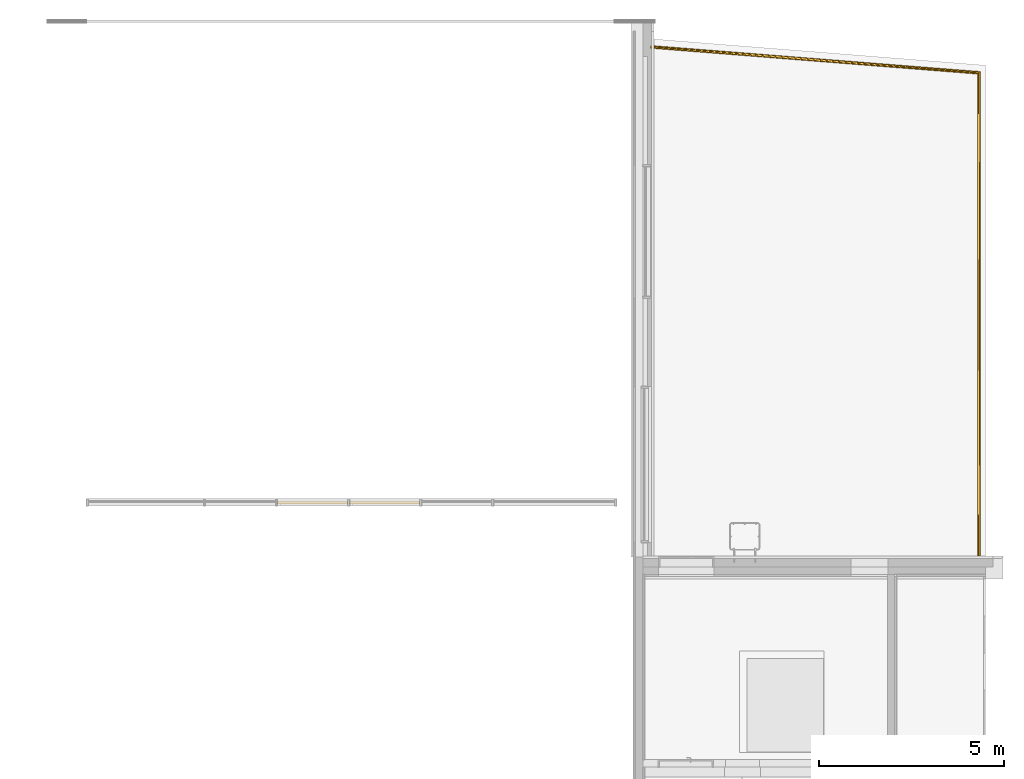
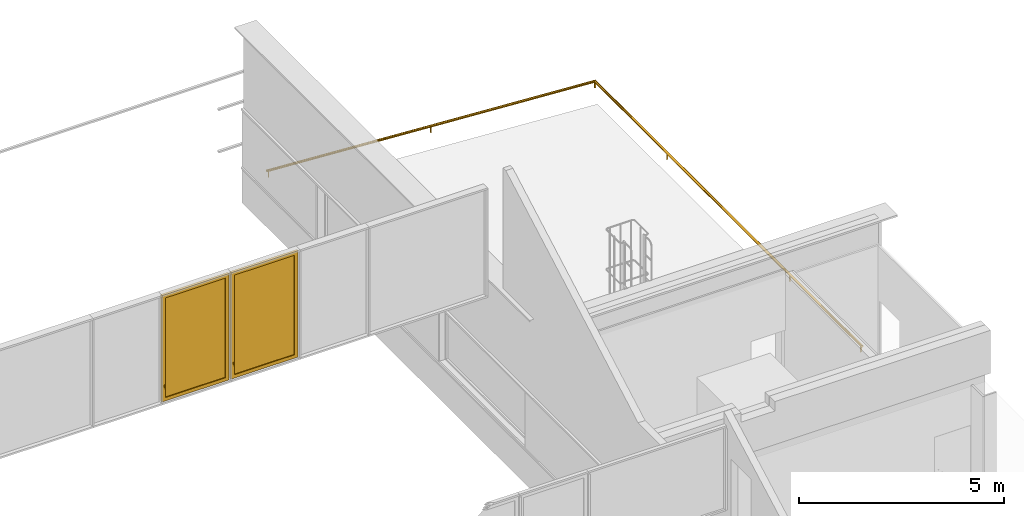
# One storey, part 42 of 44: 2 windows, 1 railing, 1 element without a shape of its own.
"""IFC2X3 building model written with IfcOpenShell, lengths in centimetres."""

from ifc_helpers import new_model, entity, si_unit, converted_unit, derived_unit, direction, frame, origin, place, context, subcontext, project, spatial, faceted_brep, source, transform, mapped, material, material_list, type_object, type_shapes, element, aggregate, save


model = new_model("IFC2X3")

# Units and contexts
model_context = context("Model", 3, precision=0.001, world=origin(), true_north=direction((6.12303176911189e-17, 1.0)))
body_context = subcontext(model_context, "Body", "Model", "MODEL_VIEW")
ifc_project = project(units=[si_unit("LENGTHUNIT", "METRE", prefix="CENTI"), si_unit("AREAUNIT", "SQUARE_METRE"), si_unit("VOLUMEUNIT", "CUBIC_METRE"), converted_unit("PLANEANGLEUNIT", "DEGREE", entity("IfcRatioMeasure", 0.0174532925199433), si_unit("PLANEANGLEUNIT", "RADIAN"), dimensions=[0, 0, 0, 0, 0, 0, 0]), si_unit("MASSUNIT", "GRAM", prefix="KILO"), si_unit("TIMEUNIT", "SECOND"), si_unit("FREQUENCYUNIT", "HERTZ"), si_unit("THERMODYNAMICTEMPERATUREUNIT", "DEGREE_CELSIUS"), derived_unit("THERMALTRANSMITTANCEUNIT", [(si_unit("MASSUNIT", "GRAM", prefix="KILO"), 1), (si_unit("THERMODYNAMICTEMPERATUREUNIT", "KELVIN"), -1), (si_unit("TIMEUNIT", "SECOND"), -3)]), derived_unit("VOLUMETRICFLOWRATEUNIT", [(si_unit("LENGTHUNIT", "METRE"), 3), (si_unit("TIMEUNIT", "SECOND"), -1)]), si_unit("ELECTRICCURRENTUNIT", "AMPERE"), si_unit("ELECTRICVOLTAGEUNIT", "VOLT"), si_unit("POWERUNIT", "WATT"), si_unit("FORCEUNIT", "NEWTON", prefix="KILO"), si_unit("ILLUMINANCEUNIT", "LUX"), si_unit("LUMINOUSFLUXUNIT", "LUMEN"), si_unit("LUMINOUSINTENSITYUNIT", "CANDELA"), derived_unit("USERDEFINED", [(si_unit("MASSUNIT", "GRAM", prefix="KILO"), -1), (si_unit("LENGTHUNIT", "METRE"), -2), (si_unit("TIMEUNIT", "SECOND"), 3), (si_unit("LUMINOUSFLUXUNIT", "LUMEN"), 1)]), derived_unit("LINEARVELOCITYUNIT", [(si_unit("LENGTHUNIT", "METRE"), 1), (si_unit("TIMEUNIT", "SECOND"), -1)]), si_unit("PRESSUREUNIT", "PASCAL"), derived_unit("USERDEFINED", [(si_unit("LENGTHUNIT", "METRE"), -2), (si_unit("MASSUNIT", "GRAM", prefix="KILO"), 1), (si_unit("TIMEUNIT", "SECOND"), -2)])], contexts=[model_context])

# Site, building, storey
site_placement = place(None, frame((8.62739174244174, -249.285249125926, 0.0)))
site = spatial("IfcSite", under=ifc_project, at=site_placement, Name="Default", CompositionType="ELEMENT")
building_placement = place(site_placement, origin())
building = spatial("IfcBuilding", under=site, at=building_placement, CompositionType="ELEMENT")
storey_placement = place(building_placement, frame((0.0, 0.0, 343.0)))
storey = spatial("IfcBuildingStorey", under=building, at=storey_placement, Name="R+1", CompositionType="ELEMENT", Elevation=343.0)

# Curtain wall, windows
curtain_wall_type = type_object("IfcCurtainWallType", Name="Mur-rideau:Simple panneau", PredefinedType="NOTDEFINED")
curtain_wall_placement = place(storey_placement, frame((0.0, 0.0, -343.0)))
curtain_wall = element("IfcCurtainWall", 1, at=curtain_wall_placement, inside=storey, type_object=curtain_wall_type, Name="Mur-rideau:Simple panneau", ObjectType="Mur-rideau:Simple panneau")
ifc_material_1 = material(Name="PVC - Blanc")
ifc_material_2 = material(Name="Fenêtre - Vitrage")
ifc_material_list_1 = material_list([ifc_material_1, ifc_material_2])
ifc_material_list_2 = material_list([ifc_material_1, ifc_material_2])
window_style_1 = type_object("IfcWindowStyle", Name="MR 1 OB", ConstructionType="NOTDEFINED", OperationType="NOTDEFINED", ParameterTakesPrecedence=False, Sizeable=False, material=ifc_material_list_2)
shared_shape_1 = source(origin(), body_context, "Body", "Brep", [
    faceted_brep([(-87.8771009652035, -4.92408568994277, 47.2033929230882), (-86.7478990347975, -4.92408568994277, 47.2033929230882), (-86.6091070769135, -4.92408568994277, 47.0646009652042), (-86.6091070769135, -4.92408568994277, 45.9332301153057), (-86.745730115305, -4.92408568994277, 45.7966070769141), (-87.879269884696, -4.92408568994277, 45.7966070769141), (-88.0158929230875, -4.92408568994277, 45.9332301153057), (-88.0158929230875, -4.92408568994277, 47.0646009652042), (-88.0158929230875, -6.1579510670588, 47.0646009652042), (-87.8771009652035, -6.21544057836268, 47.2033929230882), (-88.0158929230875, -5.68932191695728, 45.9332301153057), (-88.0158929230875, -6.35731580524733, 45.2652362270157), (-88.0158929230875, -6.35731580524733, 37.0), (-88.0158929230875, -7.48868665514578, 37.0), (-88.0158929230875, -7.48868665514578, 45.7338653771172), (-87.879269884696, -5.63273080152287, 45.7966070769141), (-86.745730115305, -5.63273080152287, 45.7966070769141), (-86.6091070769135, -5.68932191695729, 45.9332301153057), (-86.6091070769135, -6.1579510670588, 47.0646009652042), (-86.6091070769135, -7.48868665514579, 45.7338653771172), (-86.6091070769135, -7.48868665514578, 37.0), (-86.6091070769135, -6.35731580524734, 37.0), (-86.6091070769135, -6.35731580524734, 45.2652362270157), (-86.7478990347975, -6.21544057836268, 47.2033929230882), (-87.8771009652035, -7.62747861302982, 45.7913548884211), (-87.879269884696, -6.22069276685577, 45.2086451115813), (-86.745730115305, -6.22069276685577, 45.2086451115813), (-86.7478990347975, -7.62747861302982, 45.7913548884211), (-87.8771009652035, -7.62747861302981, 37.0), (-87.879269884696, -6.22069276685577, 37.0), (-86.745730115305, -6.22069276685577, 37.0), (-86.7478990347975, -7.62747861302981, 37.0)], [[[0, 1, 2, 3, 4, 5, 6, 7]], [[7, 8, 9, 0]], [[6, 10, 11, 12, 13, 14, 8, 7]], [[5, 15, 10, 6]], [[4, 16, 15, 5]], [[3, 17, 16, 4]], [[2, 18, 19, 20, 21, 22, 17, 3]], [[1, 23, 18, 2]], [[0, 9, 23, 1]], [[8, 14, 24, 9]], [[15, 25, 11, 10]], [[16, 26, 25, 15]], [[17, 22, 26, 16]], [[23, 27, 19, 18]], [[9, 24, 27, 23]], [[28, 13, 12, 29, 30, 21, 20, 31]], [[14, 13, 28, 24]], [[25, 29, 12, 11]], [[26, 30, 29, 25]], [[22, 21, 30, 26]], [[27, 31, 20, 19]], [[24, 28, 31, 27]]]),
    faceted_brep([(-88.0125000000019, -4.32408568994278, 49.0), (-86.6125000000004, -4.32408568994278, 49.0), (-86.1125000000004, -4.32408568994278, 48.500000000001), (-86.1125000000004, -4.32408568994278, 41.4999999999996), (-86.6124999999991, -4.32408568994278, 41.0), (-88.0125000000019, -4.32408568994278, 41.0), (-88.5125000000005, -4.32408568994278, 41.4999999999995), (-88.5125000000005, -4.32408568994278, 48.500000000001), (-88.0125000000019, -4.92408568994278, 49.0), (-88.5125000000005, -4.92408568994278, 48.500000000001), (-88.5125000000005, -4.92408568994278, 41.4999999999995), (-88.0125000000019, -4.92408568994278, 41.0), (-86.6124999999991, -4.92408568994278, 41.0), (-86.1125000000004, -4.92408568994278, 41.4999999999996), (-86.1125000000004, -4.92408568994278, 48.500000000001), (-86.6125000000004, -4.92408568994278, 49.0)], [[[0, 1, 2, 3, 4, 5, 6, 7]], [[8, 9, 10, 11, 12, 13, 14, 15]], [[7, 9, 8, 0]], [[6, 10, 9, 7]], [[5, 11, 10, 6]], [[4, 12, 11, 5]], [[3, 13, 12, 4]], [[2, 14, 13, 3]], [[1, 15, 14, 2]], [[0, 8, 15, 1]]]),
    faceted_brep([(84.812500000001, -1.92408568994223, 306.983987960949), (-84.812500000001, -1.92408568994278, 306.983987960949), (-84.812500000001, -1.92408568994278, 10.0), (84.812500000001, -1.92408568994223, 10.0), (84.812500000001, -0.724085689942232, 306.983987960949), (84.812500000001, -0.724085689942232, 10.0), (-84.812500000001, -0.724085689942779, 10.0), (-84.812500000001, -0.724085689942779, 306.983987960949)], [[[0, 1, 2, 3]], [[4, 5, 6, 7]], [[1, 0, 4, 7]], [[2, 1, 7, 6]], [[3, 2, 6, 5]], [[0, 3, 5, 4]]]),
    faceted_brep([(-89.812500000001, 1.67591431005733, 311.983987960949), (-89.812500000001, -4.3240856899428, 311.983987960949), (89.812500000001, -4.3240856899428, 311.983987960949), (89.812500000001, 1.67591431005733, 311.983987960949), (-84.812500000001, -4.3240856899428, 306.983987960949), (-84.812500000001, 1.67591431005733, 306.983987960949), (84.812500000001, 1.67591431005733, 306.983987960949), (84.812500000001, -4.3240856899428, 306.983987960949), (89.812500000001, -4.3240856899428, 5.0), (89.812500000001, 1.67591431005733, 5.0), (84.812500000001, 1.67591431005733, 10.0), (84.812500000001, -4.3240856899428, 10.0), (-89.812500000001, -4.3240856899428, 5.0), (-89.812500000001, 1.67591431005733, 5.0), (-84.812500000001, 1.67591431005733, 10.0), (-84.812500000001, -4.3240856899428, 10.0)], [[[0, 1, 2, 3]], [[4, 5, 6, 7]], [[3, 2, 8, 9]], [[7, 6, 10, 11]], [[9, 8, 12, 13]], [[11, 10, 14, 15]], [[7, 11, 15, 4], [1, 12, 8, 2]], [[13, 12, 1, 0]], [[3, 9, 13, 0], [5, 14, 10, 6]], [[15, 14, 5, 4]]], outer=[[True], [True], [True], [True], [True], [True], [False, True], [True], [True, False], [True]]),
    faceted_brep([(-88.8125000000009, 1.6759143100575, 310.983987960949), (-88.8125000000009, 2.67591431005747, 310.983987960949), (88.8125000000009, 2.67591431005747, 310.983987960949), (88.8125000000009, 1.6759143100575, 310.983987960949), (-89.8125000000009, -4.32408568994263, 311.983987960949), (-89.8125000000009, 1.6759143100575, 311.983987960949), (89.8125000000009, 1.6759143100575, 311.983987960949), (89.8125000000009, -4.32408568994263, 311.983987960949), (-94.8125000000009, 2.67591431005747, 316.983987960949), (-94.8125000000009, -4.32408568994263, 316.983987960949), (94.8125000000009, -4.32408568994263, 316.983987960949), (94.8125000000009, 2.67591431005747, 316.983987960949), (88.8125000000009, 2.67591431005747, 6.0), (88.8125000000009, 1.6759143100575, 6.0), (89.8125000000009, 1.6759143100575, 5.0), (89.8125000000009, -4.32408568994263, 5.0), (94.8125000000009, -4.32408568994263, 0.0), (94.8125000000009, 2.67591431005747, 0.0), (-88.8125000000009, 2.67591431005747, 6.0), (-88.8125000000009, 1.6759143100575, 6.0), (-89.8125000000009, 1.6759143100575, 5.0), (-89.8125000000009, -4.32408568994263, 5.0), (-94.8125000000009, -4.32408568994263, 0.0), (-94.8125000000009, 2.67591431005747, 0.0)], [[[0, 1, 2, 3]], [[4, 5, 6, 7]], [[8, 9, 10, 11]], [[3, 2, 12, 13]], [[7, 6, 14, 15]], [[11, 10, 16, 17]], [[13, 12, 18, 19]], [[15, 14, 20, 21]], [[17, 16, 22, 23]], [[11, 17, 23, 8], [1, 18, 12, 2]], [[19, 18, 1, 0]], [[3, 13, 19, 0], [5, 20, 14, 6]], [[21, 20, 5, 4]], [[7, 15, 21, 4], [9, 22, 16, 10]], [[23, 22, 9, 8]]], outer=[[True], [True], [True], [True], [True], [True], [True], [True], [True], [True, False], [True], [False, True], [True], [False, True], [True]]),
])
type_shapes(window_style_1, [shared_shape_1])
window_1_placement = place(curtain_wall_placement, frame((2162.09474170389, 6289.4720025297, 860.0)))
window_1 = element("IfcWindow", 2, at=window_1_placement, type_object=window_style_1, material=ifc_material_list_1, Name="MR 1 OB:MR 1 OB", ObjectType="MR 1 OB", OverallHeight=316.983987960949, OverallWidth=189.625000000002, context=body_context, shape_type="MappedRepresentation", body=[
    mapped(shared_shape_1, transform((0.0, 0.0, 0.0), scale=1.0)),
])
ifc_material_list_3 = material_list([ifc_material_1, ifc_material_2])
ifc_material_list_4 = material_list([ifc_material_1, ifc_material_2])
window_style_2 = type_object("IfcWindowStyle", Name="MR 1 OB", ConstructionType="NOTDEFINED", OperationType="NOTDEFINED", ParameterTakesPrecedence=False, Sizeable=False, material=ifc_material_list_4)
shared_shape_2 = source(origin(), body_context, "Body", "Brep", [
    faceted_brep([(-87.86880643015, -4.92408568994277, 47.2033929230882), (-86.739604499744, -4.92408568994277, 47.2033929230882), (-86.60081254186, -4.92408568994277, 47.0646009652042), (-86.60081254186, -4.92408568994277, 45.9332301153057), (-86.7374355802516, -4.92408568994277, 45.7966070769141), (-87.8709753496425, -4.92408568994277, 45.7966070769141), (-88.0075983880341, -4.92408568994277, 45.9332301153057), (-88.0075983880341, -4.92408568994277, 47.0646009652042), (-88.007598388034, -6.1579510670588, 47.0646009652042), (-87.86880643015, -6.21544057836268, 47.2033929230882), (-88.007598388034, -5.68932191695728, 45.9332301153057), (-88.007598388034, -6.35731580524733, 45.2652362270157), (-88.007598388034, -6.35731580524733, 37.0), (-88.0075983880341, -7.48868665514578, 37.0), (-88.007598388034, -7.48868665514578, 45.7338653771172), (-87.8709753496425, -5.63273080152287, 45.7966070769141), (-86.7374355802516, -5.63273080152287, 45.7966070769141), (-86.60081254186, -5.68932191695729, 45.9332301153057), (-86.60081254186, -6.1579510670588, 47.0646009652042), (-86.60081254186, -7.48868665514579, 45.7338653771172), (-86.60081254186, -7.48868665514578, 37.0), (-86.60081254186, -6.35731580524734, 37.0), (-86.60081254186, -6.35731580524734, 45.2652362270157), (-86.739604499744, -6.21544057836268, 47.2033929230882), (-87.86880643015, -7.62747861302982, 45.7913548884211), (-87.8709753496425, -6.22069276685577, 45.2086451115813), (-86.7374355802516, -6.22069276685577, 45.2086451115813), (-86.739604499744, -7.62747861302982, 45.7913548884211), (-87.86880643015, -7.62747861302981, 37.0), (-87.8709753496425, -6.22069276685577, 37.0), (-86.7374355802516, -6.22069276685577, 37.0), (-86.739604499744, -7.62747861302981, 37.0)], [[[0, 1, 2, 3, 4, 5, 6, 7]], [[7, 8, 9, 0]], [[6, 10, 11, 12, 13, 14, 8, 7]], [[5, 15, 10, 6]], [[4, 16, 15, 5]], [[3, 17, 16, 4]], [[2, 18, 19, 20, 21, 22, 17, 3]], [[1, 23, 18, 2]], [[0, 9, 23, 1]], [[8, 14, 24, 9]], [[15, 25, 11, 10]], [[16, 26, 25, 15]], [[17, 22, 26, 16]], [[23, 27, 19, 18]], [[9, 24, 27, 23]], [[28, 13, 12, 29, 30, 21, 20, 31]], [[14, 13, 28, 24]], [[25, 29, 12, 11]], [[26, 30, 29, 25]], [[22, 21, 30, 26]], [[27, 31, 20, 19]], [[24, 28, 31, 27]]]),
    faceted_brep([(-88.0042054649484, -4.32408568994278, 49.0), (-86.6042054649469, -4.32408568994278, 49.0), (-86.1042054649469, -4.32408568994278, 48.500000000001), (-86.1042054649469, -4.32408568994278, 41.4999999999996), (-86.6042054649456, -4.32408568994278, 41.0), (-88.0042054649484, -4.32408568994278, 41.0), (-88.504205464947, -4.32408568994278, 41.4999999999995), (-88.504205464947, -4.32408568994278, 48.500000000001), (-88.0042054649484, -4.92408568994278, 49.0), (-88.504205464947, -4.92408568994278, 48.500000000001), (-88.504205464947, -4.92408568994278, 41.4999999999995), (-88.0042054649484, -4.92408568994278, 41.0), (-86.6042054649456, -4.92408568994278, 41.0), (-86.1042054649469, -4.92408568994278, 41.4999999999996), (-86.1042054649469, -4.92408568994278, 48.500000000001), (-86.6042054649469, -4.92408568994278, 49.0)], [[[0, 1, 2, 3, 4, 5, 6, 7]], [[8, 9, 10, 11, 12, 13, 14, 15]], [[7, 9, 8, 0]], [[6, 10, 9, 7]], [[5, 11, 10, 6]], [[4, 12, 11, 5]], [[3, 13, 12, 4]], [[2, 14, 13, 3]], [[1, 15, 14, 2]], [[0, 8, 15, 1]]]),
    faceted_brep([(84.8042054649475, -1.92408568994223, 306.983987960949), (-84.8042054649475, -1.92408568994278, 306.983987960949), (-84.8042054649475, -1.92408568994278, 10.0), (84.8042054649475, -1.92408568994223, 10.0), (84.8042054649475, -0.724085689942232, 306.983987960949), (84.8042054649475, -0.724085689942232, 10.0), (-84.8042054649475, -0.724085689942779, 10.0), (-84.8042054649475, -0.724085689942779, 306.983987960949)], [[[0, 1, 2, 3]], [[4, 5, 6, 7]], [[1, 0, 4, 7]], [[2, 1, 7, 6]], [[3, 2, 6, 5]], [[0, 3, 5, 4]]]),
    faceted_brep([(-89.8042054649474, 1.67591431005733, 311.983987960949), (-89.8042054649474, -4.3240856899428, 311.983987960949), (89.8042054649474, -4.3240856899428, 311.983987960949), (89.8042054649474, 1.67591431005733, 311.983987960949), (-84.8042054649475, -4.3240856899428, 306.983987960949), (-84.8042054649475, 1.67591431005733, 306.983987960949), (84.8042054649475, 1.67591431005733, 306.983987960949), (84.8042054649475, -4.3240856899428, 306.983987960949), (89.8042054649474, -4.3240856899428, 5.0), (89.8042054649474, 1.67591431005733, 5.0), (84.8042054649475, 1.67591431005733, 10.0), (84.8042054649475, -4.3240856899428, 10.0), (-89.8042054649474, -4.3240856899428, 5.0), (-89.8042054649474, 1.67591431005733, 5.0), (-84.8042054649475, 1.67591431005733, 10.0), (-84.8042054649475, -4.3240856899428, 10.0)], [[[0, 1, 2, 3]], [[4, 5, 6, 7]], [[3, 2, 8, 9]], [[7, 6, 10, 11]], [[9, 8, 12, 13]], [[11, 10, 14, 15]], [[7, 11, 15, 4], [1, 12, 8, 2]], [[13, 12, 1, 0]], [[3, 9, 13, 0], [5, 14, 10, 6]], [[15, 14, 5, 4]]], outer=[[True], [True], [True], [True], [True], [True], [False, True], [True], [True, False], [True]]),
    faceted_brep([(-88.8042054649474, 1.6759143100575, 310.983987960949), (-88.8042054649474, 2.67591431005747, 310.983987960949), (88.8042054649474, 2.67591431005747, 310.983987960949), (88.8042054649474, 1.6759143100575, 310.983987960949), (-89.8042054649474, -4.32408568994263, 311.983987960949), (-89.8042054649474, 1.6759143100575, 311.983987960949), (89.8042054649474, 1.6759143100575, 311.983987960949), (89.8042054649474, -4.32408568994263, 311.983987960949), (-94.8042054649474, 2.67591431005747, 316.983987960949), (-94.8042054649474, -4.32408568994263, 316.983987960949), (94.8042054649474, -4.32408568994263, 316.983987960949), (94.8042054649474, 2.67591431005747, 316.983987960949), (88.8042054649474, 2.67591431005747, 6.0), (88.8042054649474, 1.6759143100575, 6.0), (89.8042054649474, 1.6759143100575, 5.0), (89.8042054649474, -4.32408568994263, 5.0), (94.8042054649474, -4.32408568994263, 0.0), (94.8042054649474, 2.67591431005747, 0.0), (-88.8042054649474, 2.67591431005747, 6.0), (-88.8042054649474, 1.6759143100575, 6.0), (-89.8042054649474, 1.6759143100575, 5.0), (-89.8042054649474, -4.32408568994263, 5.0), (-94.8042054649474, -4.32408568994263, 0.0), (-94.8042054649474, 2.67591431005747, 0.0)], [[[0, 1, 2, 3]], [[4, 5, 6, 7]], [[8, 9, 10, 11]], [[3, 2, 12, 13]], [[7, 6, 14, 15]], [[11, 10, 16, 17]], [[13, 12, 18, 19]], [[15, 14, 20, 21]], [[17, 16, 22, 23]], [[11, 17, 23, 8], [1, 18, 12, 2]], [[19, 18, 1, 0]], [[3, 13, 19, 0], [5, 20, 14, 6]], [[21, 20, 5, 4]], [[7, 15, 21, 4], [9, 22, 16, 10]], [[23, 22, 9, 8]]], outer=[[True], [True], [True], [True], [True], [True], [True], [True], [True], [True, False], [True], [False, True], [True], [False, True], [True]]),
])
type_shapes(window_style_2, [shared_shape_2])
window_2_placement = place(curtain_wall_placement, frame((2356.71144716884, 6289.4720025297, 860.0)))
window_2 = element("IfcWindow", 3, at=window_2_placement, type_object=window_style_2, material=ifc_material_list_3, Name="MR 1 OB:MR 1 OB", ObjectType="MR 1 OB", OverallHeight=316.983987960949, OverallWidth=189.608410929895, context=body_context, shape_type="MappedRepresentation", body=[
    mapped(shared_shape_2, transform((0.0, 0.0, 0.0), scale=1.0)),
])
aggregate(curtain_wall, [window_1, window_2])

# Railing
ifc_material_3 = material(Name="Peinture - Grise")
ifc_material_4 = material(Name="Pin (1)")
ifc_material_list_5 = material_list([ifc_material_3, ifc_material_4])
railing_placement = place(storey_placement, frame((3074.43000059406, 6144.9802081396, 85.0)))
element("IfcRailing", 4, at=railing_placement, inside=storey, material=ifc_material_list_5, Name="Garde-corps:Type Bateau 3", ObjectType="Garde-corps:Type Bateau 3", PredefinedType="NOTDEFINED", context=body_context, shape_type="Brep", body=[
    faceted_brep([(442.769044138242, 1337.49509710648, 16.9846532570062), (443.965310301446, 1337.40050711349, 16.9846532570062), (444.280610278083, 1341.38806099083, 16.9846532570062), (443.08434411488, 1341.48265098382, 16.9846532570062), (442.769044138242, 1337.49509710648, 0.0), (443.08434411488, 1341.48265098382, 0.0), (444.280610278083, 1341.38806099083, 0.0), (443.965310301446, 1337.40050711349, 0.0)], [[[0, 1, 2, 3]], [[4, 5, 6, 7]], [[1, 0, 4, 7]], [[2, 1, 7, 6]], [[3, 2, 6, 5]], [[0, 3, 5, 4]]]),
    faceted_brep([(884.574827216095, 952.804580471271, 16.9846532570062), (884.574827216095, 951.604580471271, 16.9846532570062), (888.574827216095, 951.604580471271, 16.9846532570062), (888.574827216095, 952.804580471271, 16.9846532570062), (884.574827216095, 952.804580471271, 0.0), (888.574827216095, 952.804580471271, 0.0), (888.574827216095, 951.604580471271, 0.0), (884.574827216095, 951.604580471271, 0.0)], [[[0, 1, 2, 3]], [[4, 5, 6, 7]], [[1, 0, 4, 7]], [[2, 1, 7, 6]], [[3, 2, 6, 5]], [[0, 3, 5, 4]]]),
    faceted_brep([(884.574827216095, 352.804580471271, 16.9846532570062), (884.574827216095, 351.604580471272, 16.9846532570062), (888.574827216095, 351.604580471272, 16.9846532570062), (888.574827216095, 352.804580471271, 16.9846532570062), (884.574827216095, 352.804580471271, 0.0), (888.574827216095, 352.804580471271, 0.0), (888.574827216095, 351.604580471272, 0.0), (884.574827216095, 351.604580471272, 0.0)], [[[0, 1, 2, 3]], [[4, 5, 6, 7]], [[1, 0, 4, 7]], [[2, 1, 7, 6]], [[3, 2, 6, 5]], [[0, 3, 5, 4]]]),
    faceted_brep([(884.574827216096, 1305.00916094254, 16.9846532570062), (884.574827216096, 1303.80916094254, 16.9846532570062), (888.574827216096, 1303.80916094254, 16.9846532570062), (888.574827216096, 1305.00916094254, 16.9846532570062), (884.574827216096, 1305.00916094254, 0.0), (888.574827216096, 1305.00916094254, 0.0), (888.574827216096, 1303.80916094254, 0.0), (884.574827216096, 1303.80916094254, 0.0)], [[[0, 1, 2, 3]], [[4, 5, 6, 7]], [[1, 0, 4, 7]], [[2, 1, 7, 6]], [[3, 2, 6, 5]], [[0, 3, 5, 4]]]),
    faceted_brep([(4.70348647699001, 1372.13339024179, 16.9846532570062), (5.89975264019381, 1372.0388002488, 16.9846532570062), (6.2150526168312, 1376.02635412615, 16.9846532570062), (5.01878645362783, 1376.12094411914, 16.9846532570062), (4.70348647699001, 1372.13339024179, 0.0), (5.01878645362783, 1376.12094411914, 0.0), (6.2150526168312, 1376.02635412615, 0.0), (5.89975264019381, 1372.0388002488, 0.0)], [[[0, 1, 2, 3]], [[4, 5, 6, 7]], [[1, 0, 4, 7]], [[2, 1, 7, 6]], [[3, 2, 6, 5]], [[0, 3, 5, 4]]]),
    faceted_brep([(884.574827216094, 5.59999999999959, 16.9846532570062), (884.574827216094, 4.39999999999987, 16.9846532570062), (888.574827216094, 4.39999999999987, 16.9846532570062), (888.574827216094, 5.59999999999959, 16.9846532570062), (884.574827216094, 5.59999999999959, 0.0), (888.574827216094, 5.59999999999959, 0.0), (888.574827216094, 4.39999999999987, 0.0), (884.574827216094, 4.39999999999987, 0.0)], [[[0, 1, 2, 3]], [[4, 5, 6, 7]], [[1, 0, 4, 7]], [[2, 1, 7, 6]], [[3, 2, 6, 5]], [[0, 3, 5, 4]]]),
    faceted_brep([(886.156713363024, 0.0, 22.983565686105), (884.747736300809, 0.0, 22.3734607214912), (883.338759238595, 0.0, 21.7633557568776), (882.956793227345, 0.0, 20.8816778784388), (882.574827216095, 0.0, 20.0), (883.236566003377, 0.0, 18.8852827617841), (883.898304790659, 0.0, 17.770565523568), (885.445622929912, 0.0, 17.3934999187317), (886.992941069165, 0.0, 17.0164343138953), (888.40191813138, 0.0, 17.6265392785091), (889.810895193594, 0.0, 18.2366442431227), (890.192861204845, 0.0, 19.1183221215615), (890.574827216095, 0.0, 20.0), (889.913088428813, 0.0, 21.1147172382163), (889.25134964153, 0.0, 22.2294344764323), (887.704031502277, 0.0, 22.6065000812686), (885.445622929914, 1303.36571947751, 17.3934999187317), (886.992941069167, 1304.79551913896, 17.0164343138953), (886.156713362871, 651.682858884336, 17.0164343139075), (890.083216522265, 1307.65108884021, 18.8652333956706), (890.05360309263, 653.699725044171, 18.5192260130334), (889.810895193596, 1307.39945025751, 18.2366442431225), (883.236566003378, 1301.32443994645, 18.8852827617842), (883.898304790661, 1301.93591981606, 17.770565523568), (883.339108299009, 650.967962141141, 18.2362839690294), (890.574827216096, 511.391181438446, 20.0), (884.574827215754, 650.967958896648, 17.4019237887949), (890.449652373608, 751.412020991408, 19.2553704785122), (888.386631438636, 653.04874240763, 17.3253938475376), (889.252240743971, 689.557065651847, 17.7711674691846), (887.355238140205, 652.397759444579, 17.0576515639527), (888.401918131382, 1306.09748469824, 17.6265392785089), (882.839512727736, 650.662224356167, 18.9268378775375), (882.574827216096, 511.39404248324, 20.0), (882.574827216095, 512.845526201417, 20.0), (882.574827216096, 1300.71296007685, 20.0), (890.192861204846, 1307.75240603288, 19.1183221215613), (890.574827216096, 1308.10536180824, 20.0), (890.574827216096, 795.260163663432, 20.0), (885.339963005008, 652.01140102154, 22.8534627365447), (886.992941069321, 652.011401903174, 22.9835656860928), (882.679453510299, 722.975070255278, 20.6816603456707), (889.810895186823, 653.441203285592, 21.7633557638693), (883.338759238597, 1301.41887162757, 21.7633557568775), (883.011008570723, 650.709435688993, 21.3622768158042), (883.67722436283, 650.709435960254, 22.0681374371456), (890.415801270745, 645.285656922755, 20.8374912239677), (889.934244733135, 1307.51343142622, 21.0790788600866), (884.74773630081, 1302.72083718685, 22.3734607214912), (884.443338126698, 620.918764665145, 22.5385870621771), (889.251349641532, 1306.88240206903, 22.2294344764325), (887.704031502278, 1305.45260240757, 22.6065000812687), (888.576033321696, 653.441200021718, 22.5975537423), (882.956793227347, 1301.06591585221, 20.8816778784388), (886.156713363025, 1304.02280274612, 22.9835656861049), (886.930372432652, 1304.73770257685, 22.7950328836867), (889.913088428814, 1307.49388193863, 21.114717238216), (0.211688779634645, 1371.14612304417, 21.1147172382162), (0.263850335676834, 1371.80580281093, 22.2294344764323), (0.385817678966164, 1373.34830642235, 22.6065000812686), (0.507785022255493, 1374.89081003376, 22.983565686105), (0.618847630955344, 1376.29540302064, 22.3734607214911), (0.729910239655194, 1377.69999600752, 21.7633557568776), (0.760018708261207, 1378.08077351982, 20.8816778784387), (0.79012717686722, 1378.46155103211, 20.0), (0.759689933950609, 1378.07661555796, 19.3495416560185), (0.737965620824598, 1377.80187126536, 18.8852827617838), (0.685804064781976, 1377.1421914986, 17.770565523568), (0.563836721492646, 1375.59968788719, 17.3934999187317), (0.441869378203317, 1374.05718427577, 17.0164343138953), (0.386338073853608, 1373.35488778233, 17.3214867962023), (0.330806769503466, 1372.65259128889, 17.6265392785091), (0.219744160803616, 1371.24799830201, 18.2366442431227), (0.189635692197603, 1370.86722078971, 19.1183221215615), (0.15952722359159, 1370.48644327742, 20.0), (458.533465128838, 1334.4441967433, 19.0604642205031), (484.516361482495, 1332.85406139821, 18.344551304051), (420.716398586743, 1337.23257993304, 20.0), (386.788831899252, 1341.3210373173, 17.7193023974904), (442.876485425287, 1337.86081943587, 17.2593636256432), (465.14087861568, 1337.60943905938, 17.0014084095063), (471.725176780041, 1338.20200931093, 17.0927967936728), (457.145278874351, 1341.30021109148, 17.9548626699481), (481.919559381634, 1339.98109966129, 18.638441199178), (507.034348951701, 1338.32175674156, 19.3006645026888), (372.192023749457, 1347.09218682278, 17.4036559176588), (470.019793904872, 1341.35907981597, 20.0), (423.099466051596, 1345.06911828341, 20.0), (460.26159628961, 1334.10570057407, 20.0), (444.852761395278, 1343.08047360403, 21.0791498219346), (518.213695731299, 1336.782452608, 21.7629126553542), (417.964236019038, 1343.94491563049, 22.3570527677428), (421.582520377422, 1342.68934295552, 22.7786226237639), (443.688747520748, 1339.43066013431, 22.9999996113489), (400.030821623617, 1340.72313132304, 22.5293847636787), (498.506425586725, 1333.95296920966, 22.8761154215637), (471.438788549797, 1333.62408196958, 21.3090966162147), (437.325373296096, 1336.93287332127, 21.9931468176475)], [[[0, 1, 2, 3, 4, 5, 6, 7, 8, 9, 10, 11, 12, 13, 14, 15]], [[16, 17, 18]], [[19, 20, 21]], [[22, 23, 24]], [[25, 12, 11]], [[24, 6, 5]], [[7, 6, 26]], [[23, 16, 26]], [[20, 11, 10]], [[20, 27, 11]], [[28, 29, 9]], [[9, 30, 28]], [[31, 21, 29]], [[24, 5, 32]], [[7, 18, 8]], [[21, 20, 29]], [[10, 29, 20]], [[11, 27, 25]], [[32, 4, 33, 34, 35]], [[31, 29, 28]], [[9, 29, 10]], [[27, 19, 36, 37]], [[19, 27, 20]], [[27, 37, 38, 25]], [[31, 30, 17]], [[30, 31, 28]], [[18, 7, 26]], [[23, 26, 24]], [[30, 8, 18]], [[16, 18, 26]], [[24, 32, 22]], [[6, 24, 26]], [[5, 4, 32]], [[17, 30, 18]], [[8, 30, 9]], [[22, 32, 35]], [[39, 0, 40]], [[34, 3, 41]], [[14, 13, 42]], [[43, 44, 45]], [[46, 37, 47]], [[48, 49, 39]], [[50, 51, 52]], [[53, 44, 43]], [[53, 41, 44]], [[12, 46, 13]], [[15, 40, 0]], [[44, 2, 45]], [[41, 53, 35]], [[40, 15, 52]], [[42, 46, 47]], [[39, 49, 1]], [[46, 12, 25, 38, 37]], [[39, 54, 48]], [[2, 44, 3]], [[3, 34, 33]], [[43, 45, 48]], [[45, 2, 1]], [[44, 41, 3]], [[34, 41, 35]], [[40, 51, 55, 54]], [[51, 40, 52]], [[50, 52, 42]], [[14, 52, 15]], [[54, 39, 40]], [[0, 39, 1]], [[14, 42, 52]], [[42, 47, 56, 50]], [[13, 46, 42]], [[49, 45, 1]], [[45, 49, 48]], [[57, 58, 59, 60, 61, 62, 63, 64, 65, 66, 67, 68, 69, 70, 71, 72, 73, 74]], [[75, 73, 76]], [[75, 77, 73]], [[78, 71, 79]], [[70, 79, 71]], [[17, 80, 81]], [[79, 23, 78]], [[82, 67, 66]], [[82, 83, 21]], [[66, 84, 83]], [[85, 31, 81]], [[82, 66, 83]], [[83, 36, 19, 21]], [[84, 86, 37]], [[85, 82, 31]], [[65, 64, 87, 86]], [[23, 76, 78]], [[67, 82, 85]], [[84, 66, 65]], [[81, 80, 68]], [[82, 21, 31]], [[85, 68, 67]], [[68, 85, 81]], [[69, 68, 80]], [[17, 81, 31]], [[70, 69, 80]], [[80, 17, 16]], [[16, 23, 79]], [[80, 79, 70]], [[16, 79, 80]], [[78, 72, 71]], [[72, 78, 76]], [[36, 83, 84]], [[73, 72, 76]], [[22, 76, 23]], [[35, 75, 22]], [[76, 22, 75]], [[77, 74, 73]], [[75, 35, 88, 77]], [[36, 84, 37]], [[86, 84, 65]], [[89, 90, 56]], [[89, 63, 62]], [[50, 91, 92]], [[91, 61, 92]], [[55, 93, 54]], [[62, 91, 90]], [[94, 95, 59]], [[51, 50, 92, 55]], [[59, 95, 93]], [[89, 37, 86, 87]], [[43, 96, 53]], [[50, 90, 91]], [[97, 94, 58]], [[95, 54, 93]], [[90, 50, 56]], [[57, 74, 77, 88]], [[89, 56, 47, 37]], [[97, 48, 94]], [[87, 64, 63]], [[61, 91, 62]], [[92, 61, 60]], [[60, 59, 93]], [[92, 93, 55]], [[60, 93, 92]], [[95, 48, 54]], [[48, 95, 94]], [[90, 89, 62]], [[63, 89, 87]], [[43, 48, 97]], [[58, 94, 59]], [[88, 35, 53]], [[97, 58, 57]], [[57, 96, 97]], [[97, 96, 43]], [[96, 57, 88]], [[53, 96, 88]], [[3, 33, 4]]]),
])

save(model, "model.ifc")
